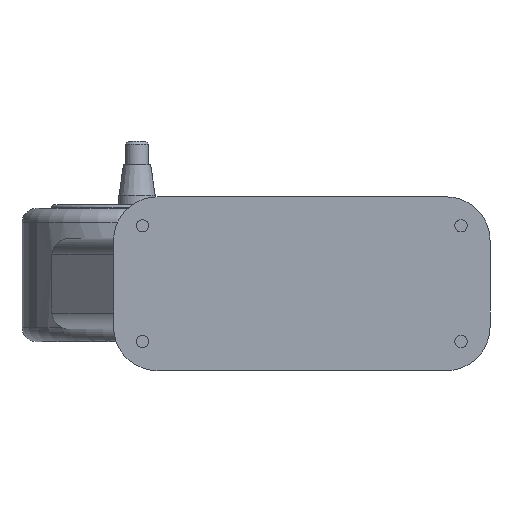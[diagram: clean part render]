
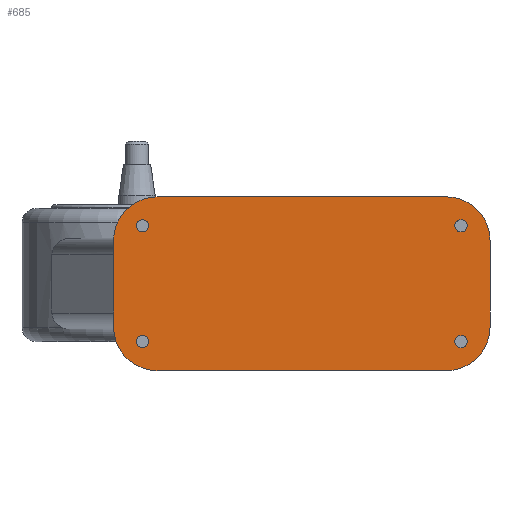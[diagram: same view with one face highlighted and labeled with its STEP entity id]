
A CAD part, front view. The second image highlights one B-rep face of the part: STEP entity #685.
In plain terms, the highlighted planar face has unit normal (0, -1, 0).
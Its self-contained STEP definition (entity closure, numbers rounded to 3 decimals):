
#29 = AXIS2_PLACEMENT_3D ( 'NONE', #592, #1801, #1357 ) ;
#46 = CARTESIAN_POINT ( 'NONE',  ( -112.601, 0., -40. ) ) ;
#78 = VERTEX_POINT ( 'NONE', #641 ) ;
#88 = EDGE_CURVE ( 'NONE', #1494, #1212, #834, .T. ) ;
#122 = CIRCLE ( 'NONE', #1031, 30. ) ;
#144 = DIRECTION ( 'NONE',  ( 1., 0., 0. ) ) ;
#152 = DIRECTION ( 'NONE',  ( 0., -1., 0. ) ) ;
#157 = ORIENTED_EDGE ( 'NONE', *, *, #1876, .T. ) ;
#161 = CARTESIAN_POINT ( 'NONE',  ( 107.399, 0., -40. ) ) ;
#176 = CIRCLE ( 'NONE', #442, 4.25 ) ;
#196 = CIRCLE ( 'NONE', #1435, 4.25 ) ;
#211 = CARTESIAN_POINT ( 'NONE',  ( -112.601, 0., 40. ) ) ;
#221 = DIRECTION ( 'NONE',  ( 0., -1., 0. ) ) ;
#229 = CARTESIAN_POINT ( 'NONE',  ( -112.601, 0., 40. ) ) ;
#236 = ORIENTED_EDGE ( 'NONE', *, *, #394, .T. ) ;
#256 = LINE ( 'NONE', #994, #773 ) ;
#276 = EDGE_CURVE ( 'NONE', #1212, #1494, #2169, .T. ) ;
#278 = ORIENTED_EDGE ( 'NONE', *, *, #1327, .F. ) ;
#287 = DIRECTION ( 'NONE',  ( 0., -1., 0. ) ) ;
#288 = EDGE_LOOP ( 'NONE', ( #1392, #302 ) ) ;
#291 = DIRECTION ( 'NONE',  ( -1., 0., 0. ) ) ;
#301 = VERTEX_POINT ( 'NONE', #546 ) ;
#302 = ORIENTED_EDGE ( 'NONE', *, *, #2221, .F. ) ;
#303 = ORIENTED_EDGE ( 'NONE', *, *, #88, .F. ) ;
#308 = DIRECTION ( 'NONE',  ( -1., 0., 0. ) ) ;
#316 = DIRECTION ( 'NONE',  ( 0., -1., 0. ) ) ;
#333 = VERTEX_POINT ( 'NONE', #1898 ) ;
#382 = DIRECTION ( 'NONE',  ( 1., 0., 0. ) ) ;
#394 = EDGE_CURVE ( 'NONE', #1782, #1266, #1408, .T. ) ;
#397 = CIRCLE ( 'NONE', #2114, 4.25 ) ;
#402 = DIRECTION ( 'NONE',  ( 1., 0., 0. ) ) ;
#420 = FACE_BOUND ( 'NONE', #2257, .T. ) ;
#441 = CARTESIAN_POINT ( 'NONE',  ( 97.399, 0., 30. ) ) ;
#442 = AXIS2_PLACEMENT_3D ( 'NONE', #211, #1447, #382 ) ;
#450 = EDGE_CURVE ( 'NONE', #619, #1592, #397, .T. ) ;
#458 = CARTESIAN_POINT ( 'NONE',  ( -112.601, 0., -40. ) ) ;
#513 = CARTESIAN_POINT ( 'NONE',  ( 107.399, 0., -40. ) ) ;
#542 = EDGE_CURVE ( 'NONE', #2083, #1782, #1240, .T. ) ;
#546 = CARTESIAN_POINT ( 'NONE',  ( -132.601, 0., -30. ) ) ;
#580 = EDGE_CURVE ( 'NONE', #301, #2083, #122, .T. ) ;
#592 = CARTESIAN_POINT ( 'NONE',  ( -132.601, 0., 60. ) ) ;
#605 = CIRCLE ( 'NONE', #2244, 30. ) ;
#607 = VECTOR ( 'NONE', #1020, 1000. ) ;
#616 = DIRECTION ( 'NONE',  ( -1., 0., 0. ) ) ;
#619 = VERTEX_POINT ( 'NONE', #855 ) ;
#641 = CARTESIAN_POINT ( 'NONE',  ( -108.351, 0., 40. ) ) ;
#669 = ORIENTED_EDGE ( 'NONE', *, *, #1864, .F. ) ;
#670 = EDGE_CURVE ( 'NONE', #1763, #1679, #902, .T. ) ;
#683 = DIRECTION ( 'NONE',  ( 1., 0., 0. ) ) ;
#685 = ADVANCED_FACE ( 'NONE', ( #1373, #420, #1808, #1481, #1855 ), #1274, .F. ) ;
#699 = ORIENTED_EDGE ( 'NONE', *, *, #2045, .F. ) ;
#702 = EDGE_LOOP ( 'NONE', ( #1705, #669 ) ) ;
#727 = CIRCLE ( 'NONE', #739, 30. ) ;
#739 = AXIS2_PLACEMENT_3D ( 'NONE', #897, #287, #291 ) ;
#744 = EDGE_CURVE ( 'NONE', #1455, #1202, #727, .T. ) ;
#745 = CIRCLE ( 'NONE', #1963, 4.25 ) ;
#757 = CARTESIAN_POINT ( 'NONE',  ( 111.649, 0., 40. ) ) ;
#764 = ORIENTED_EDGE ( 'NONE', *, *, #1835, .T. ) ;
#767 = CARTESIAN_POINT ( 'NONE',  ( -132.601, 0., 30. ) ) ;
#773 = VECTOR ( 'NONE', #808, 1000. ) ;
#778 = CARTESIAN_POINT ( 'NONE',  ( -132.601, 0., 60. ) ) ;
#808 = DIRECTION ( 'NONE',  ( 0., 0., -1. ) ) ;
#814 = EDGE_LOOP ( 'NONE', ( #303, #1727 ) ) ;
#822 = ORIENTED_EDGE ( 'NONE', *, *, #450, .F. ) ;
#834 = CIRCLE ( 'NONE', #1122, 4.25 ) ;
#855 = CARTESIAN_POINT ( 'NONE',  ( 103.149, 0., -40. ) ) ;
#863 = AXIS2_PLACEMENT_3D ( 'NONE', #458, #1990, #1036 ) ;
#897 = CARTESIAN_POINT ( 'NONE',  ( -102.601, 0., 30. ) ) ;
#902 = CIRCLE ( 'NONE', #1753, 4.25 ) ;
#976 = CARTESIAN_POINT ( 'NONE',  ( 107.399, 0., 40. ) ) ;
#994 = CARTESIAN_POINT ( 'NONE',  ( 127.399, 0., 60. ) ) ;
#1020 = DIRECTION ( 'NONE',  ( 1., 0., 0. ) ) ;
#1022 = DIRECTION ( 'NONE',  ( 1., 0., 0. ) ) ;
#1031 = AXIS2_PLACEMENT_3D ( 'NONE', #1826, #1771, #1768 ) ;
#1036 = DIRECTION ( 'NONE',  ( 1., 0., 0. ) ) ;
#1043 = LINE ( 'NONE', #2093, #607 ) ;
#1098 = CIRCLE ( 'NONE', #1172, 4.25 ) ;
#1122 = AXIS2_PLACEMENT_3D ( 'NONE', #46, #221, #1022 ) ;
#1164 = DIRECTION ( 'NONE',  ( 1., 0., 0. ) ) ;
#1166 = CARTESIAN_POINT ( 'NONE',  ( 127.399, 0., -30. ) ) ;
#1172 = AXIS2_PLACEMENT_3D ( 'NONE', #976, #2224, #1164 ) ;
#1195 = DIRECTION ( 'NONE',  ( 1., 0., 0. ) ) ;
#1202 = VERTEX_POINT ( 'NONE', #767 ) ;
#1212 = VERTEX_POINT ( 'NONE', #2030 ) ;
#1230 = CARTESIAN_POINT ( 'NONE',  ( -102.601, 0., -60. ) ) ;
#1240 = LINE ( 'NONE', #1466, #2024 ) ;
#1266 = VERTEX_POINT ( 'NONE', #1166 ) ;
#1274 = PLANE ( 'NONE',  #29 ) ;
#1285 = CARTESIAN_POINT ( 'NONE',  ( 103.149, 0., 40. ) ) ;
#1299 = CARTESIAN_POINT ( 'NONE',  ( 97.399, 0., 60. ) ) ;
#1307 = CARTESIAN_POINT ( 'NONE',  ( 97.399, 0., -60. ) ) ;
#1327 = EDGE_CURVE ( 'NONE', #1818, #1266, #256, .T. ) ;
#1357 = DIRECTION ( 'NONE',  ( -1., 0., 0. ) ) ;
#1373 = FACE_BOUND ( 'NONE', #814, .T. ) ;
#1392 = ORIENTED_EDGE ( 'NONE', *, *, #1647, .F. ) ;
#1401 = EDGE_CURVE ( 'NONE', #1455, #2245, #1043, .T. ) ;
#1407 = CARTESIAN_POINT ( 'NONE',  ( 107.399, 0., 40. ) ) ;
#1408 = CIRCLE ( 'NONE', #1462, 30. ) ;
#1435 = AXIS2_PLACEMENT_3D ( 'NONE', #229, #1468, #402 ) ;
#1447 = DIRECTION ( 'NONE',  ( 0., -1., 0. ) ) ;
#1455 = VERTEX_POINT ( 'NONE', #1565 ) ;
#1462 = AXIS2_PLACEMENT_3D ( 'NONE', #2258, #2272, #308 ) ;
#1466 = CARTESIAN_POINT ( 'NONE',  ( -132.601, 0., -60. ) ) ;
#1468 = DIRECTION ( 'NONE',  ( 0., -1., 0. ) ) ;
#1481 = FACE_BOUND ( 'NONE', #288, .T. ) ;
#1494 = VERTEX_POINT ( 'NONE', #1943 ) ;
#1547 = DIRECTION ( 'NONE',  ( 1., 0., 0. ) ) ;
#1565 = CARTESIAN_POINT ( 'NONE',  ( -102.601, 0., 60. ) ) ;
#1572 = ORIENTED_EDGE ( 'NONE', *, *, #1401, .F. ) ;
#1592 = VERTEX_POINT ( 'NONE', #1802 ) ;
#1610 = ORIENTED_EDGE ( 'NONE', *, *, #580, .T. ) ;
#1633 = VECTOR ( 'NONE', #1686, 1000. ) ;
#1647 = EDGE_CURVE ( 'NONE', #78, #333, #176, .T. ) ;
#1679 = VERTEX_POINT ( 'NONE', #1285 ) ;
#1682 = ORIENTED_EDGE ( 'NONE', *, *, #744, .T. ) ;
#1686 = DIRECTION ( 'NONE',  ( 0., 0., -1. ) ) ;
#1702 = DIRECTION ( 'NONE',  ( 0., -1., 0. ) ) ;
#1705 = ORIENTED_EDGE ( 'NONE', *, *, #670, .F. ) ;
#1727 = ORIENTED_EDGE ( 'NONE', *, *, #276, .F. ) ;
#1753 = AXIS2_PLACEMENT_3D ( 'NONE', #1407, #316, #1195 ) ;
#1763 = VERTEX_POINT ( 'NONE', #757 ) ;
#1768 = DIRECTION ( 'NONE',  ( -1., 0., 0. ) ) ;
#1771 = DIRECTION ( 'NONE',  ( 0., -1., 0. ) ) ;
#1776 = DIRECTION ( 'NONE',  ( 0., -1., 0. ) ) ;
#1782 = VERTEX_POINT ( 'NONE', #1307 ) ;
#1801 = DIRECTION ( 'NONE',  ( 0., 1., 0. ) ) ;
#1802 = CARTESIAN_POINT ( 'NONE',  ( 111.649, 0., -40. ) ) ;
#1808 = FACE_BOUND ( 'NONE', #702, .T. ) ;
#1818 = VERTEX_POINT ( 'NONE', #2211 ) ;
#1826 = CARTESIAN_POINT ( 'NONE',  ( -102.601, 0., -30. ) ) ;
#1835 = EDGE_CURVE ( 'NONE', #1202, #301, #2043, .T. ) ;
#1855 = FACE_OUTER_BOUND ( 'NONE', #1928, .T. ) ;
#1864 = EDGE_CURVE ( 'NONE', #1679, #1763, #1098, .T. ) ;
#1876 = EDGE_CURVE ( 'NONE', #1818, #2245, #605, .T. ) ;
#1898 = CARTESIAN_POINT ( 'NONE',  ( -116.851, 0., 40. ) ) ;
#1928 = EDGE_LOOP ( 'NONE', ( #2028, #236, #278, #157, #1572, #1682, #764, #1610 ) ) ;
#1943 = CARTESIAN_POINT ( 'NONE',  ( -108.351, 0., -40. ) ) ;
#1963 = AXIS2_PLACEMENT_3D ( 'NONE', #513, #1776, #683 ) ;
#1990 = DIRECTION ( 'NONE',  ( 0., -1., 0. ) ) ;
#2024 = VECTOR ( 'NONE', #1547, 1000. ) ;
#2028 = ORIENTED_EDGE ( 'NONE', *, *, #542, .T. ) ;
#2030 = CARTESIAN_POINT ( 'NONE',  ( -116.851, 0., -40. ) ) ;
#2043 = LINE ( 'NONE', #778, #1633 ) ;
#2045 = EDGE_CURVE ( 'NONE', #1592, #619, #745, .T. ) ;
#2083 = VERTEX_POINT ( 'NONE', #1230 ) ;
#2093 = CARTESIAN_POINT ( 'NONE',  ( -132.601, 0., 60. ) ) ;
#2114 = AXIS2_PLACEMENT_3D ( 'NONE', #161, #152, #144 ) ;
#2169 = CIRCLE ( 'NONE', #863, 4.25 ) ;
#2211 = CARTESIAN_POINT ( 'NONE',  ( 127.399, 0., 30. ) ) ;
#2221 = EDGE_CURVE ( 'NONE', #333, #78, #196, .T. ) ;
#2224 = DIRECTION ( 'NONE',  ( 0., -1., 0. ) ) ;
#2244 = AXIS2_PLACEMENT_3D ( 'NONE', #441, #1702, #616 ) ;
#2245 = VERTEX_POINT ( 'NONE', #1299 ) ;
#2257 = EDGE_LOOP ( 'NONE', ( #699, #822 ) ) ;
#2258 = CARTESIAN_POINT ( 'NONE',  ( 97.399, 0., -30. ) ) ;
#2272 = DIRECTION ( 'NONE',  ( 0., -1., 0. ) ) ;
